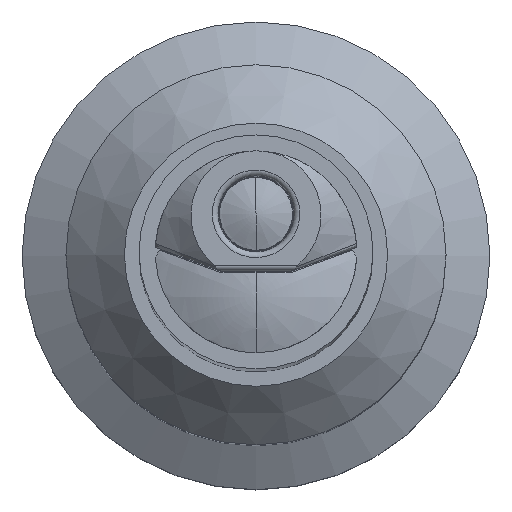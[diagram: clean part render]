
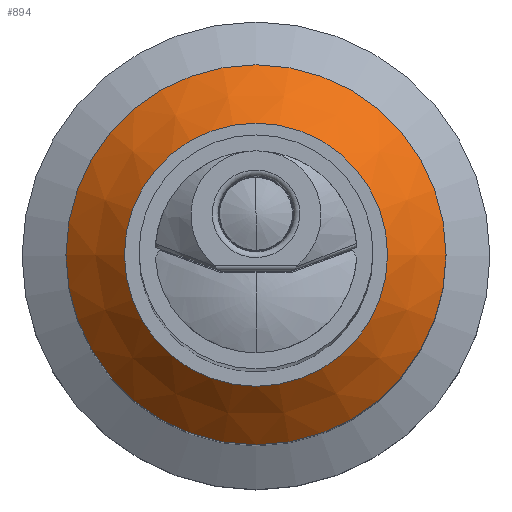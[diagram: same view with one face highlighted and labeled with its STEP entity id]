
A CAD part, top view. The second image highlights one B-rep face of the part: STEP entity #894.
In plain terms, the highlighted conical face has half-angle 45 degrees and reference radius 2.75 mm.
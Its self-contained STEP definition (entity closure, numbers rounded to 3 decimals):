
#27=CONICAL_SURFACE('',#981,2.75,0.785);
#73=FACE_OUTER_BOUND('',#129,.T.);
#129=EDGE_LOOP('',(#604,#605,#606,#607,#608));
#192=CIRCLE('',#980,2.25);
#193=CIRCLE('',#982,3.25);
#194=CIRCLE('',#983,3.25);
#285=LINE('',#1583,#317);
#317=VECTOR('',#1135,2.75);
#368=VERTEX_POINT('',#1576);
#369=VERTEX_POINT('',#1579);
#370=VERTEX_POINT('',#1580);
#465=EDGE_CURVE('',#368,#368,#192,.T.);
#466=EDGE_CURVE('',#369,#370,#193,.T.);
#467=EDGE_CURVE('',#370,#369,#194,.T.);
#468=EDGE_CURVE('',#369,#368,#285,.T.);
#604=ORIENTED_EDGE('',*,*,#466,.T.);
#605=ORIENTED_EDGE('',*,*,#467,.T.);
#606=ORIENTED_EDGE('',*,*,#468,.T.);
#607=ORIENTED_EDGE('',*,*,#465,.F.);
#608=ORIENTED_EDGE('',*,*,#468,.F.);
#894=ADVANCED_FACE('',(#73),#27,.T.);
#980=AXIS2_PLACEMENT_3D('',#1577,#1127,#1128);
#981=AXIS2_PLACEMENT_3D('',#1578,#1129,#1130);
#982=AXIS2_PLACEMENT_3D('',#1581,#1131,#1132);
#983=AXIS2_PLACEMENT_3D('',#1582,#1133,#1134);
#1127=DIRECTION('center_axis',(0.,0.,1.));
#1128=DIRECTION('ref_axis',(1.,0.,0.));
#1129=DIRECTION('center_axis',(0.,0.,-1.));
#1130=DIRECTION('ref_axis',(1.,0.,0.));
#1131=DIRECTION('center_axis',(0.,0.,1.));
#1132=DIRECTION('ref_axis',(1.,0.,0.));
#1133=DIRECTION('center_axis',(0.,0.,1.));
#1134=DIRECTION('ref_axis',(1.,0.,0.));
#1135=DIRECTION('',(0.707,0.,0.707));
#1576=CARTESIAN_POINT('',(-2.25,0.,-28.6));
#1577=CARTESIAN_POINT('Origin',(0.,0.,-28.6));
#1578=CARTESIAN_POINT('Origin',(0.,0.,-29.1));
#1579=CARTESIAN_POINT('',(-3.25,0.,-29.6));
#1580=CARTESIAN_POINT('',(3.25,0.,-29.6));
#1581=CARTESIAN_POINT('Origin',(0.,0.,-29.6));
#1582=CARTESIAN_POINT('Origin',(0.,0.,-29.6));
#1583=CARTESIAN_POINT('',(-2.75,0.,-29.1));
